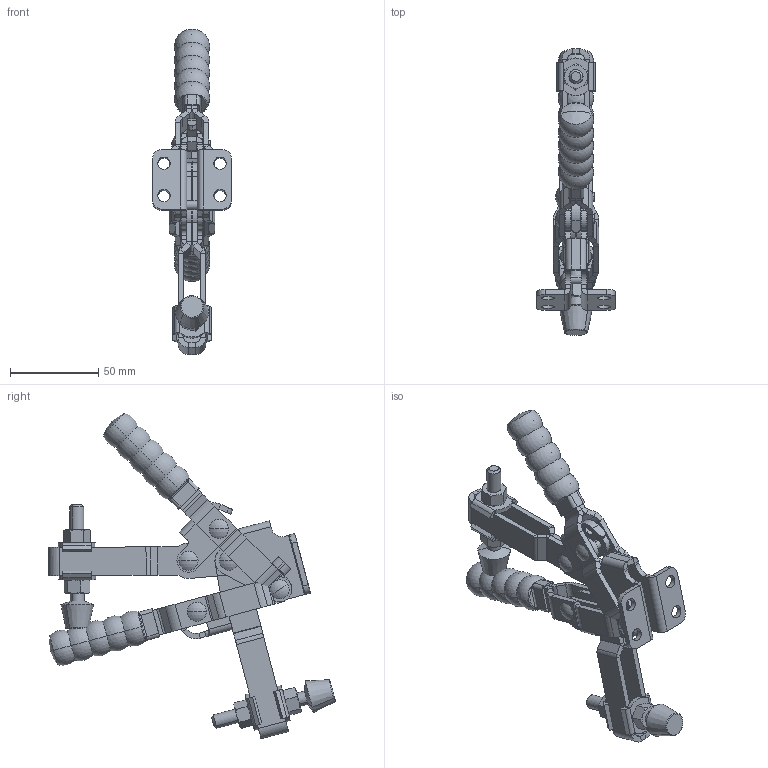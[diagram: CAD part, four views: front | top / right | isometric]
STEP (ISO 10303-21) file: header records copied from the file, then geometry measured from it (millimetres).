
FILE_DESCRIPTION (( 'STEP AP214' ), '1' );
FILE_NAME ('ISK-HV4500 Assy.STEP', '2023-02-17T05:09:04', ( '' ), ( '' ), 'SwSTEP 2.0', 'SolidWorks 2020', '' );
FILE_SCHEMA (( 'AUTOMOTIVE_DESIGN' ));
Length unit declared in the file: millimetre
Products named in the file (12): flat round head rivets gb_GB_RIVETS_ROUND_TYPE83 5X13; Rubber bolt_M8×55; Base; Arm; hexagon nut style 2_ab_jis_JIS B 1181 Hexagon nut - style 2 A M8 - D --N; Handle; ISK-HV4500 Assy - 2; Link; ISK-HV4500 Assy; flat round head rivets gb_GB_RIVETS_ROUND_TYPE83 5X20; Grip; Washer_D8-15
Assembly tree (31 placements, depth 3):
  ISK-HV4500 Assy
    Link
    Base
    Handle  x2
    Arm
    Grip
    Washer_D8-15  x2
    Rubber bolt_M8×55
    hexagon nut style 2_ab_jis_JIS B 1181 Hexagon nut - style 2 A M8 - D --N  x2
    flat round head rivets gb_GB_RIVETS_ROUND_TYPE83 5X13  x2
    flat round head rivets gb_GB_RIVETS_ROUND_TYPE83 5X20  x2
    ISK-HV4500 Assy - 2
      Link
      Base
      Handle  x2
      Arm
      Grip
      Washer_D8-15  x2
      Rubber bolt_M8×55
      hexagon nut style 2_ab_jis_JIS B 1181 Hexagon nut - style 2 A M8 - D --N  x2
      flat round head rivets gb_GB_RIVETS_ROUND_TYPE83 5X13  x2
      flat round head rivets gb_GB_RIVETS_ROUND_TYPE83 5X20  x2
Bounding box: 44.6 x 162.29 x 184.18 mm (x, y, z)
Volume: 120540.9 mm3; surface area: 91545.7 mm2
Topology: 30 solids, 30 shells, 1068 faces, 2428 edges, 1404 vertices
Faces by surface type: plane 552, cylinder 336, cone 76, sphere 40, bspline 32, torus 32
Entity records: 12220 total; most frequent: CARTESIAN_POINT 2489, DIRECTION 2044, ORIENTED_EDGE 1824, EDGE_CURVE 912, AXIS2_PLACEMENT_3D 778, VERTEX_POINT 533, LINE 488, VECTOR 488
